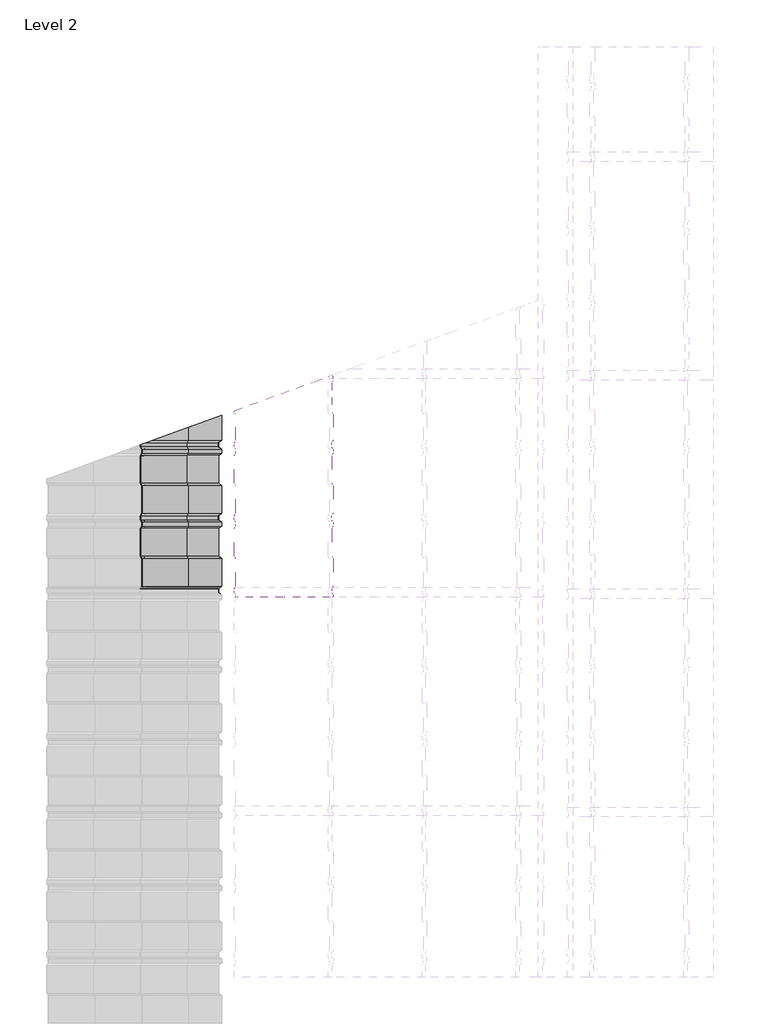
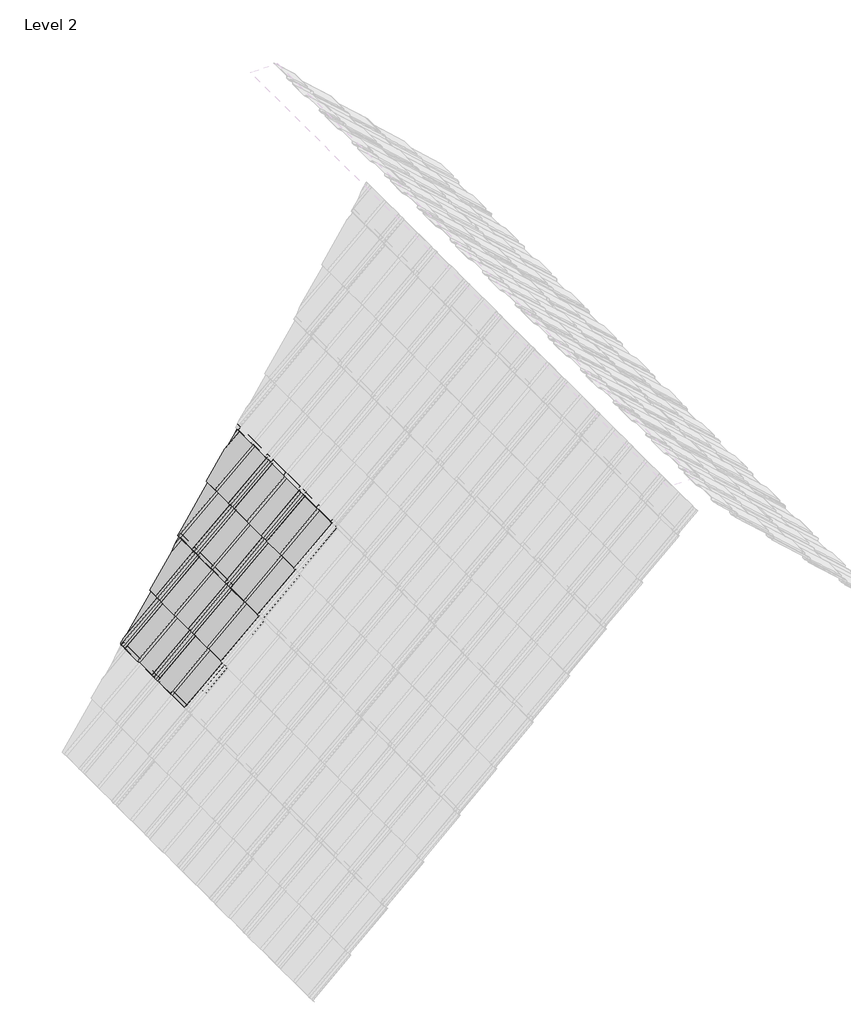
# One storey, part 2 of 4: 2 proxies.
"""IFC4 building model written with IfcOpenShell, lengths in millimetres."""

from ifc_helpers import new_model, si_unit, origin, place, context, project, spatial, faceted_brep, element, save

model = new_model("IFC4")

# Units and contexts
model_context = context("Model", 3, world=origin())
ifc_project = project(units=[si_unit("LENGTHUNIT", "METRE", prefix="MILLI")], contexts=[model_context])

# Site, building, storey
site = spatial("IfcSite", under=ifc_project)
building = spatial("IfcBuilding", under=site)
storey = spatial("IfcBuildingStorey", under=building, Name="Level 2", Elevation=4000.0)

# Proxies
placement = place(None, origin())
element("IfcBuildingElementProxy", 1, Name="AQUAPLAST - Blachodachówka Alice : Blachodachówka Alice", ObjectType="AQUAPLAST - Blachodachówka Alice : Blachodachówka Alice", at=placement, inside=storey, context=model_context, shape_type="Brep", body=[
    faceted_brep([(-7469.546321, 14058.8864165, 4805.2098563), (-7461.4934347, 14046.8864165, 4796.3131703), (-7461.4934347, 14024.8864165, 4796.3131703), (-7469.2107841, 14013.3864165, 4804.839161), (-7469.2107841, 13866.6688392, 4804.839161), (-7461.4934347, 13855.1688392, 4796.3131703), (-7461.4934347, 13709.2531454, 4796.3131703), (-7469.546321, 13697.2531454, 4805.2098563), (-7469.546321, 13675.440766, 4805.2098563), (-7461.4934347, 13663.440766, 4796.3131703), (-7461.4934347, 13641.440766, 4796.3131703), (-7469.2107841, 13629.940766, 4804.839161), (-7469.2107841, 13483.2231888, 4804.839161), (-7461.4934347, 13471.7231888, 4796.3131703), (-7461.4934347, 13325.1039938, 4796.3131703), (-7469.2107841, 13313.6039938, 4804.839161), (-7469.2107841, 13291.8864165, 4804.839161), (-7461.4934347, 13280.3864165, 4796.3131703), (-7461.4934347, 13267.7302878, 4796.3131703), (-7450.2865013, 13267.7302878, 4783.9319489), (-7450.2865013, 13280.3864165, 4783.9319489), (-7458.0038507, 13291.8864165, 4792.4579397), (-7458.0038507, 13313.6039938, 4792.4579397), (-7450.2865013, 13325.1039938, 4783.9319489), (-7450.2865013, 13471.7231888, 4783.9319489), (-7458.0038507, 13483.2231888, 4792.4579397), (-7458.0038507, 13629.940766, 4792.4579397), (-7450.2865013, 13641.440766, 4783.9319489), (-7450.2865013, 13663.440766, 4783.9319489), (-7458.3393876, 13675.440766, 4792.8286349), (-7458.3393876, 13697.2531454, 4792.8286349), (-7450.2865013, 13709.2531454, 4783.9319489), (-7450.2865013, 13855.1688392, 4783.9319489), (-7458.0038507, 13866.6688392, 4792.4579397), (-7458.0038507, 14013.3864165, 4792.4579397), (-7450.2865013, 14024.8864165, 4783.9319489), (-7450.2865013, 14046.8864165, 4783.9319489), (-7458.3393876, 14058.8864165, 4792.8286349), (-7458.3393876, 14074.1216256, 4792.8286349), (-7469.546321, 14070.0426354, 4805.2098563), (-6963.7995439, 14242.0759953, 5286.5937441), (-6956.0821945, 14230.5759953, 5278.0677534), (-6956.0821945, 14092.9059027, 5278.0677534), (-6964.1350809, 14080.9059027, 5286.9644394), (-6964.1350809, 14058.6793097, 5286.9644394), (-6956.0821945, 14046.6793097, 5278.0677534), (-6956.0821945, 14025.0935233, 5278.0677534), (-6963.7995439, 14013.5935233, 5286.5937441), (-6963.7995439, 13866.4617325, 5286.5937441), (-6956.0821945, 13854.9617325, 5278.0677534), (-6956.0821945, 13709.4602522, 5278.0677534), (-6964.1350809, 13697.4602522, 5286.9644394), (-6964.1350809, 13675.2336592, 5286.9644394), (-6956.0821945, 13663.2336592, 5278.0677534), (-6956.0821945, 13641.6478728, 5278.0677534), (-6963.7995439, 13630.1478728, 5286.5937441), (-6963.7995439, 13483.016082, 5286.5937441), (-6956.0821945, 13471.516082, 5278.0677534), (-6956.0821945, 13325.3111006, 5278.0677534), (-6963.7995439, 13313.8111006, 5286.5937441), (-6963.7995439, 13291.6793097, 5286.5937441), (-6956.0821945, 13280.1793097, 5278.0677534), (-6956.0821945, 13267.7302878, 5278.0677534), (-6967.071029, 13267.7302878, 5290.2080228), (-6967.071029, 13280.1793097, 5290.2080228), (-6974.7883784, 13291.6793097, 5298.7340136), (-6974.7883784, 13313.8111006, 5298.7340136), (-6967.071029, 13325.3111006, 5290.2080228), (-6967.071029, 13471.516082, 5290.2080228), (-6974.7883784, 13483.016082, 5298.7340136), (-6974.7883784, 13630.1478728, 5298.7340136), (-6967.071029, 13641.6478728, 5290.2080228), (-6967.071029, 13663.2336592, 5290.2080228), (-6975.1239153, 13675.2336592, 5299.1047088), (-6975.1239153, 13697.4602522, 5299.1047088), (-6967.071029, 13709.4602522, 5290.2080228), (-6967.071029, 13854.9617325, 5290.2080228), (-6974.7883784, 13866.4617325, 5298.7340136), (-6974.7883784, 14013.5935233, 5298.7340136), (-6967.071029, 14025.0935233, 5290.2080228), (-6967.071029, 14046.6793097, 5290.2080228), (-6975.1239153, 14058.6793097, 5299.1047088), (-6975.1239153, 14080.9059027, 5299.1047088), (-6967.071029, 14092.9059027, 5290.2080228), (-6967.071029, 14230.5759953, 5290.2080228), (-6974.7883784, 14242.0759953, 5298.7340136), (-6974.7883784, 14250.1197997, 5298.7340136), (-6963.7995439, 14254.1194083, 5286.5937441), (-6959.2191779, 14242.0759953, 5312.8265646), (-6951.5018285, 14230.5759953, 5304.3005739), (-6951.5018285, 14092.9059027, 5304.3005739), (-6959.5547148, 14080.9059027, 5313.1972599), (-6959.5547148, 14058.6793097, 5313.1972599), (-6951.5018285, 14046.6793097, 5304.3005739), (-6951.5018285, 14025.0935233, 5304.3005739), (-6959.2191779, 14013.5935233, 5312.8265646), (-6959.2191779, 13866.4617325, 5312.8265646), (-6951.5018285, 13854.9617325, 5304.3005739), (-6951.5018285, 13709.4602522, 5304.3005739), (-6959.5547148, 13697.4602522, 5313.1972599), (-6959.5547148, 13675.2336592, 5313.1972599), (-6951.5018285, 13663.2336592, 5304.3005739), (-6951.5018285, 13641.6478728, 5304.3005739), (-6959.2191779, 13630.1478728, 5312.8265646), (-6959.2191779, 13483.016082, 5312.8265646), (-6951.5018285, 13471.516082, 5304.3005739), (-6951.5018285, 13325.3111006, 5304.3005739), (-6959.2191779, 13313.8111006, 5312.8265646), (-6959.2191779, 13291.6793097, 5312.8265646), (-6951.5018285, 13280.1793097, 5304.3005739), (-6951.5018285, 13267.7302878, 5304.3005739), (-6951.1662915, 13267.7302878, 5303.9298786), (-6951.1662915, 13280.3864165, 5303.9298786), (-6958.8836409, 13291.8864165, 5312.4558694), (-6958.8836409, 13313.6039938, 5312.4558694), (-6951.1662915, 13325.1039938, 5303.9298786), (-6951.1662915, 13471.7231888, 5303.9298786), (-6958.8836409, 13483.2231888, 5312.4558694), (-6958.8836409, 13629.940766, 5312.4558694), (-6951.1662915, 13641.440766, 5303.9298786), (-6951.1662915, 13663.440766, 5303.9298786), (-6959.2191779, 13675.440766, 5312.8265646), (-6959.2191779, 13697.2531454, 5312.8265646), (-6951.1662915, 13709.2531454, 5303.9298786), (-6951.1662915, 13855.1688392, 5303.9298786), (-6958.8836409, 13866.6688392, 5312.4558694), (-6958.8836409, 14013.3864165, 5312.4558694), (-6951.1662915, 14024.8864165, 5303.9298786), (-6951.1662915, 14046.8864165, 5303.9298786), (-6959.2191779, 14058.8864165, 5312.8265646), (-6959.2191779, 14080.6987959, 5312.8265646), (-6951.1662915, 14092.6987959, 5303.9298786), (-6951.1662915, 14230.7831021, 5303.9298786), (-6958.8836409, 14242.2831021, 5312.4558694), (-6958.8836409, 14255.9086507, 5312.4558694), (-6959.2191779, 14255.7865253, 5312.8265646), (-6973.711451, 14242.2831021, 5299.0343922), (-6965.9941016, 14230.7831021, 5290.5084014), (-6965.9941016, 14092.6987959, 5290.5084014), (-6974.0469879, 14080.6987959, 5299.4050874), (-6974.0469879, 14058.8864165, 5299.4050874), (-6965.9941016, 14046.8864165, 5290.5084014), (-6965.9941016, 14024.8864165, 5290.5084014), (-6973.711451, 14013.3864165, 5299.0343922), (-6973.711451, 13866.6688392, 5299.0343922), (-6965.9941016, 13855.1688392, 5290.5084014), (-6965.9941016, 13709.2531454, 5290.5084014), (-6974.0469879, 13697.2531454, 5299.4050874), (-6974.0469879, 13675.440766, 5299.4050874), (-6965.9941016, 13663.440766, 5290.5084014), (-6965.9941016, 13641.440766, 5290.5084014), (-6973.711451, 13629.940766, 5299.0343922), (-6973.711451, 13483.2231888, 5299.0343922), (-6965.9941016, 13471.7231888, 5290.5084014), (-6965.9941016, 13325.1039938, 5290.5084014), (-6973.711451, 13313.6039938, 5299.0343922), (-6973.711451, 13291.8864165, 5299.0343922), (-6965.9941016, 13280.3864165, 5290.5084014), (-6965.9941016, 13267.7302878, 5290.5084014), (-6955.0052671, 13267.7302878, 5278.368132), (-6955.0052671, 13280.3864165, 5278.368132), (-6962.7226165, 13291.8864165, 5286.8941227), (-6962.7226165, 13313.6039938, 5286.8941227), (-6955.0052671, 13325.1039938, 5278.368132), (-6955.0052671, 13471.7231888, 5278.368132), (-6962.7226165, 13483.2231888, 5286.8941227), (-6962.7226165, 13629.940766, 5286.8941227), (-6955.0052671, 13641.440766, 5278.368132), (-6955.0052671, 13663.440766, 5278.368132), (-6963.0581534, 13675.440766, 5287.264818), (-6963.0581534, 13697.2531454, 5287.264818), (-6955.0052671, 13709.2531454, 5278.368132), (-6955.0052671, 13855.1688392, 5278.368132), (-6962.7226165, 13866.6688392, 5286.8941227), (-6962.7226165, 14013.3864165, 5286.8941227), (-6955.0052671, 14024.8864165, 5278.368132), (-6955.0052671, 14046.8864165, 5278.368132), (-6963.0581534, 14058.8864165, 5287.264818), (-6963.0581534, 14080.6987959, 5287.264818), (-6955.0052671, 14092.6987959, 5278.368132), (-6955.0052671, 14230.7831021, 5278.368132), (-6962.7226165, 14242.2831021, 5286.8941227), (-6962.7226165, 14254.5113779, 5286.8941227), (-6973.711451, 14250.5117692, 5299.0343922), (-7203.8250773, 14092.9059027, 5030.2175687), (-7211.8779636, 14080.9059027, 5039.1142547), (-7211.8779636, 14058.6793097, 5039.1142547), (-7203.8250773, 14046.6793097, 5030.2175687), (-7203.8250773, 14025.0935233, 5030.2175687), (-7211.5424267, 14013.5935233, 5038.7435595), (-7211.5424267, 13866.4617325, 5038.7435595), (-7203.8250773, 13854.9617325, 5030.2175687), (-7203.8250773, 13709.4602522, 5030.2175687), (-7211.8779636, 13697.4602522, 5039.1142547), (-7211.8779636, 13675.2336592, 5039.1142547), (-7203.8250773, 13663.2336592, 5030.2175687), (-7203.8250773, 13641.6478728, 5030.2175687), (-7211.5424267, 13630.1478728, 5038.7435595), (-7211.5424267, 13483.016082, 5038.7435595), (-7203.8250773, 13471.516082, 5030.2175687), (-7203.8250773, 13325.3111006, 5030.2175687), (-7211.5424267, 13313.8111006, 5038.7435595), (-7211.5424267, 13291.6793097, 5038.7435595), (-7203.8250773, 13280.1793097, 5030.2175687), (-7203.8250773, 13267.7302878, 5030.2175687), (-7215.5688699, 13267.7302878, 5043.1919025), (-7215.5688699, 13280.1793097, 5043.1919025), (-7223.2862193, 13291.6793097, 5051.7178932), (-7223.2862193, 13313.8111006, 5051.7178932), (-7215.5688699, 13325.3111006, 5043.1919025), (-7215.5688699, 13471.516082, 5043.1919025), (-7223.2862193, 13483.016082, 5051.7178932), (-7223.2862193, 13630.1478728, 5051.7178932), (-7215.5688699, 13641.6478728, 5043.1919025), (-7215.5688699, 13663.2336592, 5043.1919025), (-7223.6217562, 13675.2336592, 5052.0885885), (-7223.6217562, 13697.4602522, 5052.0885885), (-7215.5688699, 13709.4602522, 5043.1919025), (-7215.5688699, 13854.9617325, 5043.1919025), (-7223.2862193, 13866.4617325, 5051.7178932), (-7223.2862193, 14013.5935233, 5051.7178932), (-7215.5688699, 14025.0935233, 5043.1919025), (-7215.5688699, 14046.6793097, 5043.1919025), (-7223.6217562, 14058.6793097, 5052.0885885), (-7223.6217562, 14080.9059027, 5052.0885885), (-7215.5688699, 14092.9059027, 5043.1919025), (-7215.5688699, 14162.4828678, 5043.1919025), (-7203.8250773, 14166.7572587, 5030.2175687), (-6996.8885494, 14242.0759953, 5256.6430413), (-7028.4845397, 14230.5759953, 5212.5323558), (-7214.4919424, 13267.7302878, 5043.4922811), (-7214.4919424, 13280.3864165, 5043.4922811), (-7222.2092918, 13291.8864165, 5052.0182718), (-7222.2092918, 13313.6039938, 5052.0182718), (-7214.4919424, 13325.1039938, 5043.4922811), (-7214.4919424, 13471.7231888, 5043.4922811), (-7222.2092918, 13483.2231888, 5052.0182718), (-7222.2092918, 13629.940766, 5052.0182718), (-7214.4919424, 13641.440766, 5043.4922811), (-7214.4919424, 13663.440766, 5043.4922811), (-7222.5448288, 13675.440766, 5052.3889671), (-7222.5448288, 13697.2531454, 5052.3889671), (-7214.4919424, 13709.2531454, 5043.4922811), (-7214.4919424, 13855.1688392, 5043.4922811), (-7222.2092918, 13866.6688392, 5052.0182718), (-7222.2092918, 14013.3864165, 5052.0182718), (-7214.4919424, 14024.8864165, 5043.4922811), (-7214.4919424, 14046.8864165, 5043.4922811), (-7222.5448288, 14058.8864165, 5052.3889671), (-7222.5448288, 14080.6987959, 5052.3889671), (-7214.4919424, 14092.6987959, 5043.4922811), (-7214.4919424, 14162.8748373, 5043.4922811), (-7027.9155185, 14230.7831021, 5212.3730002), (-6996.3195282, 14242.2831021, 5256.4836857), (-7459.0807781, 14058.8864165, 4792.1575611), (-7451.0278918, 14046.8864165, 4783.2608751), (-7451.0278918, 14024.8864165, 4783.2608751), (-7458.7452412, 14013.3864165, 4791.7868658), (-7458.7452412, 13866.6688392, 4791.7868658), (-7451.0278918, 13855.1688392, 4783.2608751), (-7451.0278918, 13709.2531454, 4783.2608751), (-7459.0807781, 13697.2531454, 4792.1575611), (-7459.0807781, 13675.440766, 4792.1575611), (-7451.0278918, 13663.440766, 4783.2608751), (-7451.0278918, 13641.440766, 4783.2608751), (-7458.7452412, 13629.940766, 4791.7868658), (-7458.7452412, 13483.2231888, 4791.7868658), (-7451.0278918, 13471.7231888, 4783.2608751), (-7451.0278918, 13325.1039938, 4783.2608751), (-7458.7452412, 13313.6039938, 4791.7868658), (-7458.7452412, 13291.8864165, 4791.7868658), (-7451.0278918, 13280.3864165, 4783.2608751), (-7451.0278918, 13267.7302878, 4783.2608751), (-7462.5703622, 13267.7302878, 4796.0127917), (-7462.5703622, 13280.1793097, 4796.0127917), (-7470.2877115, 13291.6793097, 4804.5387824), (-7470.2877115, 13313.8111006, 4804.5387824), (-7462.5703622, 13325.3111006, 4796.0127917), (-7462.5703622, 13471.516082, 4796.0127917), (-7470.2877115, 13483.016082, 4804.5387824), (-7470.2877115, 13630.1478728, 4804.5387824), (-7462.5703622, 13641.6478728, 4796.0127917), (-7462.5703622, 13663.2336592, 4796.0127917), (-7470.6232485, 13675.2336592, 4804.9094777), (-7470.6232485, 13697.4602522, 4804.9094777), (-7462.5703622, 13709.4602522, 4796.0127917), (-7462.5703622, 13854.9617325, 4796.0127917), (-7470.2877115, 13866.4617325, 4804.5387824), (-7470.2877115, 14013.5935233, 4804.5387824), (-7462.5703622, 14025.0935233, 4796.0127917), (-7462.5703622, 14046.6793097, 4796.0127917), (-7470.6232485, 14058.6793097, 4804.9094777), (-7470.6232485, 14069.6506659, 4804.9094777), (-7459.0807781, 14073.8517815, 4792.1575611), (-7202.7481499, 13267.7302878, 5030.5179473), (-7202.7481499, 13280.3864165, 5030.5179473), (-7210.4654993, 13291.8864165, 5039.0439381), (-7210.4654993, 13313.6039938, 5039.0439381), (-7202.7481499, 13325.1039938, 5030.5179473), (-7202.7481499, 13471.7231888, 5030.5179473), (-7210.4654993, 13483.2231888, 5039.0439381), (-7210.4654993, 13629.940766, 5039.0439381), (-7202.7481499, 13641.440766, 5030.5179473), (-7202.7481499, 13663.440766, 5030.5179473), (-7210.8010362, 13675.440766, 5039.4146333), (-7210.8010362, 13697.2531454, 5039.4146333), (-7202.7481499, 13709.2531454, 5030.5179473), (-7202.7481499, 13855.1688392, 5030.5179473), (-7210.4654993, 13866.6688392, 5039.0439381), (-7210.4654993, 14013.3864165, 5039.0439381), (-7202.7481499, 14024.8864165, 5030.5179473), (-7202.7481499, 14046.8864165, 5030.5179473), (-7210.8010362, 14058.8864165, 5039.4146333), (-7210.8010362, 14080.6987959, 5039.4146333), (-7202.7481499, 14092.6987959, 5030.5179473), (-7202.7481499, 14167.1492283, 5030.5179473), (-7406.7300105, 14092.9059027, 4846.557006), (-7439.6997395, 14080.9059027, 4832.900069), (-7203.4895404, 13280.3864165, 5029.8468735), (-7211.2068898, 13291.8864165, 5038.3728642), (-7211.2068898, 13313.6039938, 5038.3728642), (-7203.4895404, 13325.1039938, 5029.8468735), (-7203.4895404, 13471.7231888, 5029.8468735), (-7211.2068898, 13483.2231888, 5038.3728642), (-7211.2068898, 13629.940766, 5038.3728642), (-7203.4895404, 13641.440766, 5029.8468735), (-7203.4895404, 13663.440766, 5029.8468735), (-7211.5424267, 13675.440766, 5038.7435595), (-7211.5424267, 13697.2531454, 5038.7435595), (-7203.4895404, 13709.2531454, 5029.8468735), (-7203.4895404, 13855.1688392, 5029.8468735), (-7211.2068898, 13866.6688392, 5038.3728642), (-7211.2068898, 14013.3864165, 5038.3728642), (-7203.4895404, 14024.8864165, 5029.8468735), (-7203.4895404, 14046.8864165, 5029.8468735), (-7211.5424267, 14058.8864165, 5038.7435595), (-7440.2687607, 14080.6987959, 4831.7106078), (-7211.5424267, 14080.6987959, 5038.7435595), (-7407.2990317, 14092.6987959, 4845.3675447), (-7203.4895404, 14092.6987959, 5029.8468735), (-6974.0469879, 14242.0759953, 5299.4050874), (-6966.3296385, 14230.5759953, 5290.8790967), (-6966.3296385, 14092.9059027, 5290.8790967), (-6974.3825248, 14080.9059027, 5299.7757827), (-6974.3825248, 14058.6793097, 5299.7757827), (-6966.3296385, 14046.6793097, 5290.8790967), (-6966.3296385, 14025.0935233, 5290.8790967), (-6974.0469879, 14013.5935233, 5299.4050874), (-6974.0469879, 13866.4617325, 5299.4050874), (-6966.3296385, 13854.9617325, 5290.8790967), (-6966.3296385, 13709.4602522, 5290.8790967), (-6974.3825248, 13697.4602522, 5299.7757827), (-6974.3825248, 13675.2336592, 5299.7757827), (-6966.3296385, 13663.2336592, 5290.8790967), (-6966.3296385, 13641.6478728, 5290.8790967), (-6974.0469879, 13630.1478728, 5299.4050874), (-6974.0469879, 13483.016082, 5299.4050874), (-6966.3296385, 13471.516082, 5290.8790967), (-6966.3296385, 13325.3111006, 5290.8790967), (-6974.0469879, 13313.8111006, 5299.4050874), (-6974.0469879, 13291.6793097, 5299.4050874), (-6966.3296385, 13280.1793097, 5290.8790967)], [[[0, 1, 2, 3, 4, 5, 6, 7, 8, 9, 10, 11, 12, 13, 14, 15, 16, 17, 18, 19, 20, 21, 22, 23, 24, 25, 26, 27, 28, 29, 30, 31, 32, 33, 34, 35, 36, 37, 38, 39]], [[40, 41, 42, 43, 44, 45, 46, 47, 48, 49, 50, 51, 52, 53, 54, 55, 56, 57, 58, 59, 60, 61, 62, 63, 64, 65, 66, 67, 68, 69, 70, 71, 72, 73, 74, 75, 76, 77, 78, 79, 80, 81, 82, 83, 84, 85, 86, 87]], [[88, 89, 90, 91, 92, 93, 94, 95, 96, 97, 98, 99, 100, 101, 102, 103, 104, 105, 106, 107, 108, 109, 110, 111, 112, 113, 114, 115, 116, 117, 118, 119, 120, 121, 122, 123, 124, 125, 126, 127, 128, 129, 130, 131, 132, 133, 134, 135]], [[136, 137, 138, 139, 140, 141, 142, 143, 144, 145, 146, 147, 148, 149, 150, 151, 152, 153, 154, 155, 156, 157, 158, 159, 160, 161, 162, 163, 164, 165, 166, 167, 168, 169, 170, 171, 172, 173, 174, 175, 176, 177, 178, 179, 180, 181, 182, 183]], [[184, 185, 186, 187, 188, 189, 190, 191, 192, 193, 194, 195, 196, 197, 198, 199, 200, 201, 202, 203, 204, 205, 206, 207, 208, 209, 210, 211, 212, 213, 214, 215, 216, 217, 218, 219, 220, 221, 222, 223, 224, 225, 226, 227]], [[40, 87, 228]], [[41, 40, 228, 229]], [[42, 41, 229, 226, 225]], [[43, 42, 225, 224]], [[44, 43, 224, 223]], [[45, 44, 223, 222]], [[46, 45, 222, 221]], [[47, 46, 221, 220]], [[48, 47, 220, 219]], [[49, 48, 219, 218]], [[50, 49, 218, 217]], [[51, 50, 217, 216]], [[52, 51, 216, 215]], [[53, 52, 215, 214]], [[54, 53, 214, 213]], [[55, 54, 213, 212]], [[56, 55, 212, 211]], [[57, 56, 211, 210]], [[58, 57, 210, 209]], [[59, 58, 209, 208]], [[60, 59, 208, 207]], [[61, 60, 207, 206]], [[62, 61, 206, 205]], [[160, 159, 230, 231]], [[161, 160, 231, 232]], [[162, 161, 232, 233]], [[163, 162, 233, 234]], [[164, 163, 234, 235]], [[165, 164, 235, 236]], [[166, 165, 236, 237]], [[167, 166, 237, 238]], [[168, 167, 238, 239]], [[169, 168, 239, 240]], [[170, 169, 240, 241]], [[171, 170, 241, 242]], [[172, 171, 242, 243]], [[173, 172, 243, 244]], [[174, 173, 244, 245]], [[175, 174, 245, 246]], [[176, 175, 246, 247]], [[177, 176, 247, 248]], [[178, 177, 248, 249]], [[179, 178, 249, 250]], [[180, 179, 250, 251, 252]], [[181, 180, 252, 253]], [[182, 181, 253]], [[254, 255, 256, 257, 258, 259, 260, 261, 262, 263, 264, 265, 266, 267, 268, 269, 270, 271, 272, 273, 274, 275, 276, 277, 278, 279, 280, 281, 282, 283, 284, 285, 286, 287, 288, 289, 290, 291, 292, 293]], [[231, 230, 294, 295, 296, 297, 298, 299, 300, 301, 302, 303, 304, 305, 306, 307, 308, 309, 310, 311, 312, 313, 314, 315, 251, 250, 249, 248, 247, 246, 245, 244, 243, 242, 241, 240, 239, 238, 237, 236, 235, 234, 233, 232]], [[184, 227, 316]], [[185, 184, 316, 317]], [[186, 185, 317, 292, 291]], [[187, 186, 291, 290]], [[188, 187, 290, 289]], [[189, 188, 289, 288]], [[190, 189, 288, 287]], [[191, 190, 287, 286]], [[192, 191, 286, 285]], [[193, 192, 285, 284]], [[194, 193, 284, 283]], [[195, 194, 283, 282]], [[196, 195, 282, 281]], [[197, 196, 281, 280]], [[198, 197, 280, 279]], [[199, 198, 279, 278]], [[200, 199, 278, 277]], [[201, 200, 277, 276]], [[202, 201, 276, 275]], [[203, 202, 275, 274]], [[204, 203, 274, 273]], [[18, 17, 318, 295, 294]], [[17, 16, 319, 296, 295, 318]], [[16, 15, 320, 297, 296, 319]], [[15, 14, 321, 298, 297, 320]], [[14, 13, 322, 299, 298, 321]], [[13, 12, 323, 300, 299, 322]], [[12, 11, 324, 301, 300, 323]], [[11, 10, 325, 302, 301, 324]], [[10, 9, 326, 303, 302, 325]], [[9, 8, 327, 304, 303, 326]], [[8, 7, 328, 305, 304, 327]], [[7, 6, 329, 306, 305, 328]], [[6, 5, 330, 307, 306, 329]], [[5, 4, 331, 308, 307, 330]], [[4, 3, 332, 309, 308, 331]], [[3, 2, 333, 310, 309, 332]], [[2, 1, 334, 311, 310, 333]], [[1, 0, 335, 312, 311, 334]], [[313, 312, 335, 0, 39, 336, 337]], [[314, 313, 337, 336, 338, 339]], [[314, 339, 338, 315]], [[20, 19, 272, 271]], [[21, 20, 271, 270]], [[22, 21, 270, 269]], [[23, 22, 269, 268]], [[24, 23, 268, 267]], [[25, 24, 267, 266]], [[26, 25, 266, 265]], [[27, 26, 265, 264]], [[28, 27, 264, 263]], [[29, 28, 263, 262]], [[30, 29, 262, 261]], [[31, 30, 261, 260]], [[32, 31, 260, 259]], [[33, 32, 259, 258]], [[34, 33, 258, 257]], [[35, 34, 257, 256]], [[36, 35, 256, 255]], [[37, 36, 255, 254]], [[37, 254, 293, 38]], [[85, 340, 88, 135, 86]], [[85, 84, 341, 89, 88, 340]], [[84, 83, 342, 90, 89, 341]], [[83, 82, 343, 91, 90, 342]], [[82, 81, 344, 92, 91, 343]], [[81, 80, 345, 93, 92, 344]], [[80, 79, 346, 94, 93, 345]], [[79, 78, 347, 95, 94, 346]], [[78, 77, 348, 96, 95, 347]], [[77, 76, 349, 97, 96, 348]], [[76, 75, 350, 98, 97, 349]], [[75, 74, 351, 99, 98, 350]], [[74, 73, 352, 100, 99, 351]], [[73, 72, 353, 101, 100, 352]], [[72, 71, 354, 102, 101, 353]], [[71, 70, 355, 103, 102, 354]], [[70, 69, 356, 104, 103, 355]], [[69, 68, 357, 105, 104, 356]], [[68, 67, 358, 106, 105, 357]], [[67, 66, 359, 107, 106, 358]], [[66, 65, 360, 108, 107, 359]], [[65, 64, 361, 109, 108, 360]], [[64, 63, 110, 109, 361]], [[112, 111, 158, 157]], [[113, 112, 157, 156]], [[114, 113, 156, 155]], [[115, 114, 155, 154]], [[116, 115, 154, 153]], [[117, 116, 153, 152]], [[118, 117, 152, 151]], [[119, 118, 151, 150]], [[120, 119, 150, 149]], [[121, 120, 149, 148]], [[122, 121, 148, 147]], [[123, 122, 147, 146]], [[124, 123, 146, 145]], [[125, 124, 145, 144]], [[126, 125, 144, 143]], [[127, 126, 143, 142]], [[128, 127, 142, 141]], [[129, 128, 141, 140]], [[130, 129, 140, 139]], [[131, 130, 139, 138]], [[132, 131, 138, 137]], [[133, 132, 137, 136]], [[133, 136, 183, 134]], [[19, 18, 294, 230, 159, 158, 111, 110, 63, 62, 205, 204, 273, 272]], [[39, 38, 293, 292, 317, 316, 227, 226, 229, 228, 87, 86, 135, 134, 183, 182, 253, 252, 251, 315, 338, 336]]]),
])
element("IfcBuildingElementProxy", 2, Name="AQUAPLAST - Blachodachówka Alice : Blachodachówka Alice", ObjectType="AQUAPLAST - Blachodachówka Alice : Blachodachówka Alice", at=placement, inside=storey, context=model_context, shape_type="Brep", body=[
    faceted_brep([(-6975.3674081, 14242.2831021, 5298.682537), (-6967.6500587, 14230.7831021, 5290.1565463), (-6967.6500587, 14092.6987959, 5290.1565463), (-6975.7029451, 14080.6987959, 5299.0532323), (-6975.7029451, 14058.8864165, 5299.0532323), (-6967.6500587, 14046.8864165, 5290.1565463), (-6967.6500587, 14024.8864165, 5290.1565463), (-6975.3674081, 14013.3864165, 5298.682537), (-6975.3674081, 13866.6688392, 5298.682537), (-6967.6500587, 13855.1688392, 5290.1565463), (-6967.6500587, 13709.2531454, 5290.1565463), (-6975.7029451, 13697.2531454, 5299.0532323), (-6975.7029451, 13675.440766, 5299.0532323), (-6967.6500587, 13663.440766, 5290.1565463), (-6967.6500587, 13641.440766, 5290.1565463), (-6975.3674081, 13629.940766, 5298.682537), (-6975.3674081, 13483.2231888, 5298.682537), (-6967.6500587, 13471.7231888, 5290.1565463), (-6967.6500587, 13325.1039938, 5290.1565463), (-6975.3674081, 13313.6039938, 5298.682537), (-6975.3674081, 13291.8864165, 5298.682537), (-6967.6500587, 13280.3864165, 5290.1565463), (-6967.6500587, 13267.7302878, 5290.1565463), (-6956.4431253, 13267.7302878, 5277.7753249), (-6956.4431253, 13280.3864165, 5277.7753249), (-6964.1604747, 13291.8864165, 5286.3013157), (-6964.1604747, 13313.6039938, 5286.3013157), (-6956.4431253, 13325.1039938, 5277.7753249), (-6956.4431253, 13471.7231888, 5277.7753249), (-6964.1604747, 13483.2231888, 5286.3013157), (-6964.1604747, 13629.940766, 5286.3013157), (-6956.4431253, 13641.440766, 5277.7753249), (-6956.4431253, 13663.440766, 5277.7753249), (-6964.4960116, 13675.440766, 5286.6720109), (-6964.4960116, 13697.2531454, 5286.6720109), (-6956.4431253, 13709.2531454, 5277.7753249), (-6956.4431253, 13855.1688392, 5277.7753249), (-6964.1604747, 13866.6688392, 5286.3013157), (-6964.1604747, 14013.3864165, 5286.3013157), (-6956.4431253, 14024.8864165, 5277.7753249), (-6956.4431253, 14046.8864165, 5277.7753249), (-6964.4960116, 14058.8864165, 5286.6720109), (-6964.4960116, 14080.6987959, 5286.6720109), (-6956.4431253, 14092.6987959, 5277.7753249), (-6956.4431253, 14230.7831021, 5277.7753249), (-6964.1604747, 14242.2831021, 5286.3013157), (-6964.1604747, 14253.9880403, 5286.3013157), (-6975.3674081, 14249.9090501, 5298.682537), (-6462.5743555, 14428.9722029, 5772.2818246), (-6462.5743555, 14407.5935233, 5772.2818246), (-6469.956168, 14396.5935233, 5780.4371201), (-6469.956168, 14242.0759953, 5780.4371201), (-6462.2388186, 14230.5759953, 5771.9111293), (-6462.2388186, 14092.9059027, 5771.9111293), (-6470.2917049, 14080.9059027, 5780.8078153), (-6470.2917049, 14058.6793097, 5780.8078153), (-6462.2388186, 14046.6793097, 5771.9111293), (-6462.2388186, 14025.0935233, 5771.9111293), (-6469.956168, 14013.5935233, 5780.4371201), (-6469.956168, 13866.4617325, 5780.4371201), (-6462.2388186, 13854.9617325, 5771.9111293), (-6462.2388186, 13709.4602522, 5771.9111293), (-6470.2917049, 13697.4602522, 5780.8078153), (-6470.2917049, 13675.2336592, 5780.8078153), (-6462.2388186, 13663.2336592, 5771.9111293), (-6462.2388186, 13641.6478728, 5771.9111293), (-6469.956168, 13630.1478728, 5780.4371201), (-6469.956168, 13483.016082, 5780.4371201), (-6462.2388186, 13471.516082, 5771.9111293), (-6462.2388186, 13325.3111006, 5771.9111293), (-6469.956168, 13313.8111006, 5780.4371201), (-6469.956168, 13291.6793097, 5780.4371201), (-6462.2388186, 13280.1793097, 5771.9111293), (-6462.2388186, 13267.7302878, 5771.9111293), (-6473.227653, 13267.7302878, 5784.0513988), (-6473.227653, 13280.1793097, 5784.0513988), (-6480.9450024, 13291.6793097, 5792.5773895), (-6480.9450024, 13313.8111006, 5792.5773895), (-6473.227653, 13325.3111006, 5784.0513988), (-6473.227653, 13471.516082, 5784.0513988), (-6480.9450024, 13483.016082, 5792.5773895), (-6480.9450024, 13630.1478728, 5792.5773895), (-6473.227653, 13641.6478728, 5784.0513988), (-6473.227653, 13663.2336592, 5784.0513988), (-6481.2805393, 13675.2336592, 5792.9480848), (-6481.2805393, 13697.4602522, 5792.9480848), (-6473.227653, 13709.4602522, 5784.0513988), (-6473.227653, 13854.9617325, 5784.0513988), (-6480.9450024, 13866.4617325, 5792.5773895), (-6480.9450024, 14013.5935233, 5792.5773895), (-6473.227653, 14025.0935233, 5784.0513988), (-6473.227653, 14046.6793097, 5784.0513988), (-6481.2805393, 14058.6793097, 5792.9480848), (-6481.2805393, 14080.9059027, 5792.9480848), (-6473.227653, 14092.9059027, 5784.0513988), (-6473.227653, 14230.5759953, 5784.0513988), (-6480.9450024, 14242.0759953, 5792.5773895), (-6480.9450024, 14396.5935233, 5792.5773895), (-6473.5631899, 14407.5935233, 5784.422094), (-6473.5631899, 14428.9722029, 5784.422094), (-6475.4932957, 14431.8483479, 5786.5544406), (-6466.6616088, 14435.0628191, 5776.7973495), (-6457.6584525, 14407.3864165, 5798.1439498), (-6457.6584525, 14429.1793097, 5798.1439498), (-6462.5990142, 14436.5414826, 5803.6021948), (-6462.980385, 14436.402675, 5804.0235265), (-6457.9939894, 14428.9722029, 5798.5146451), (-6457.9939894, 14407.5935233, 5798.5146451), (-6465.3758019, 14396.5935233, 5806.6699406), (-6465.3758019, 14242.0759953, 5806.6699406), (-6457.6584525, 14230.5759953, 5798.1439498), (-6457.6584525, 14092.9059027, 5798.1439498), (-6465.7113388, 14080.9059027, 5807.0406359), (-6465.7113388, 14058.6793097, 5807.0406359), (-6457.6584525, 14046.6793097, 5798.1439498), (-6457.6584525, 14025.0935233, 5798.1439498), (-6465.3758019, 14013.5935233, 5806.6699406), (-6465.3758019, 13866.4617325, 5806.6699406), (-6457.6584525, 13854.9617325, 5798.1439498), (-6457.6584525, 13709.4602522, 5798.1439498), (-6465.7113388, 13697.4602522, 5807.0406359), (-6465.7113388, 13675.2336592, 5807.0406359), (-6457.6584525, 13663.2336592, 5798.1439498), (-6457.6584525, 13641.6478728, 5798.1439498), (-6465.3758019, 13630.1478728, 5806.6699406), (-6465.3758019, 13483.016082, 5806.6699406), (-6457.6584525, 13471.516082, 5798.1439498), (-6457.6584525, 13325.3111006, 5798.1439498), (-6465.3758019, 13313.8111006, 5806.6699406), (-6465.3758019, 13291.6793097, 5806.6699406), (-6457.6584525, 13280.1793097, 5798.1439498), (-6457.6584525, 13267.7302878, 5798.1439498), (-6457.3229156, 13267.7302878, 5797.7732546), (-6457.3229156, 13280.3864165, 5797.7732546), (-6465.040265, 13291.8864165, 5806.2992453), (-6465.040265, 13313.6039938, 5806.2992453), (-6457.3229156, 13325.1039938, 5797.7732546), (-6457.3229156, 13471.7231888, 5797.7732546), (-6465.040265, 13483.2231888, 5806.2992453), (-6465.040265, 13629.940766, 5806.2992453), (-6457.3229156, 13641.440766, 5797.7732546), (-6457.3229156, 13663.440766, 5797.7732546), (-6465.3758019, 13675.440766, 5806.6699406), (-6465.3758019, 13697.2531454, 5806.6699406), (-6457.3229156, 13709.2531454, 5797.7732546), (-6457.3229156, 13855.1688392, 5797.7732546), (-6465.040265, 13866.6688392, 5806.2992453), (-6465.040265, 14013.3864165, 5806.2992453), (-6457.3229156, 14024.8864165, 5797.7732546), (-6457.3229156, 14046.8864165, 5797.7732546), (-6465.3758019, 14058.8864165, 5806.6699406), (-6465.3758019, 14080.6987959, 5806.6699406), (-6457.3229156, 14092.6987959, 5797.7732546), (-6457.3229156, 14230.7831021, 5797.7732546), (-6465.040265, 14242.2831021, 5806.2992453), (-6465.040265, 14396.3864165, 5806.2992453), (-6472.4862625, 14429.1793097, 5784.7224726), (-6472.4862625, 14407.3864165, 5784.7224726), (-6479.868075, 14396.3864165, 5792.8777682), (-6479.868075, 14242.2831021, 5792.8777682), (-6472.1507256, 14230.7831021, 5784.3517774), (-6472.1507256, 14092.6987959, 5784.3517774), (-6480.2036119, 14080.6987959, 5793.2484634), (-6480.2036119, 14058.8864165, 5793.2484634), (-6472.1507256, 14046.8864165, 5784.3517774), (-6472.1507256, 14024.8864165, 5784.3517774), (-6479.868075, 14013.3864165, 5792.8777682), (-6479.868075, 13866.6688392, 5792.8777682), (-6472.1507256, 13855.1688392, 5784.3517774), (-6472.1507256, 13709.2531454, 5784.3517774), (-6480.2036119, 13697.2531454, 5793.2484634), (-6480.2036119, 13675.440766, 5793.2484634), (-6472.1507256, 13663.440766, 5784.3517774), (-6472.1507256, 13641.440766, 5784.3517774), (-6479.868075, 13629.940766, 5792.8777682), (-6479.868075, 13483.2231888, 5792.8777682), (-6472.1507256, 13471.7231888, 5784.3517774), (-6472.1507256, 13325.1039938, 5784.3517774), (-6479.868075, 13313.6039938, 5792.8777682), (-6479.868075, 13291.8864165, 5792.8777682), (-6472.1507256, 13280.3864165, 5784.3517774), (-6472.1507256, 13267.7302878, 5784.3517774), (-6461.1618911, 13267.7302878, 5772.2115079), (-6461.1618911, 13280.3864165, 5772.2115079), (-6468.8792405, 13291.8864165, 5780.7374987), (-6468.8792405, 13313.6039938, 5780.7374987), (-6461.1618911, 13325.1039938, 5772.2115079), (-6461.1618911, 13471.7231888, 5772.2115079), (-6468.8792405, 13483.2231888, 5780.7374987), (-6468.8792405, 13629.940766, 5780.7374987), (-6461.1618911, 13641.440766, 5772.2115079), (-6461.1618911, 13663.440766, 5772.2115079), (-6469.2147775, 13675.440766, 5781.108194), (-6469.2147775, 13697.2531454, 5781.108194), (-6461.1618911, 13709.2531454, 5772.2115079), (-6461.1618911, 13855.1688392, 5772.2115079), (-6468.8792405, 13866.6688392, 5780.7374987), (-6468.8792405, 14013.3864165, 5780.7374987), (-6461.1618911, 14024.8864165, 5772.2115079), (-6461.1618911, 14046.8864165, 5772.2115079), (-6469.2147775, 14058.8864165, 5781.108194), (-6469.2147775, 14080.6987959, 5781.108194), (-6461.1618911, 14092.6987959, 5772.2115079), (-6461.1618911, 14230.7831021, 5772.2115079), (-6468.8792405, 14242.2831021, 5780.7374987), (-6468.8792405, 14396.3864165, 5780.7374987), (-6461.4974281, 14407.3864165, 5772.5822032), (-6461.4974281, 14429.1793097, 5772.5822032), (-6465.6843851, 14435.4184994, 5777.2078791), (-6474.516072, 14432.2040282, 5786.9649702), (-6717.6990507, 14242.0759953, 5532.5869354), (-6709.9817013, 14230.5759953, 5524.0609447), (-6709.9817013, 14092.9059027, 5524.0609447), (-6718.0345877, 14080.9059027, 5532.9576307), (-6718.0345877, 14058.6793097, 5532.9576307), (-6709.9817013, 14046.6793097, 5524.0609447), (-6709.9817013, 14025.0935233, 5524.0609447), (-6717.6990507, 14013.5935233, 5532.5869354), (-6717.6990507, 13866.4617325, 5532.5869354), (-6709.9817013, 13854.9617325, 5524.0609447), (-6709.9817013, 13709.4602522, 5524.0609447), (-6718.0345877, 13697.4602522, 5532.9576307), (-6718.0345877, 13675.2336592, 5532.9576307), (-6709.9817013, 13663.2336592, 5524.0609447), (-6709.9817013, 13641.6478728, 5524.0609447), (-6717.6990507, 13630.1478728, 5532.5869354), (-6717.6990507, 13483.016082, 5532.5869354), (-6709.9817013, 13471.516082, 5524.0609447), (-6709.9817013, 13325.3111006, 5524.0609447), (-6717.6990507, 13313.8111006, 5532.5869354), (-6717.6990507, 13291.6793097, 5532.5869354), (-6709.9817013, 13280.1793097, 5524.0609447), (-6709.9817013, 13267.7302878, 5524.0609447), (-6721.7254939, 13267.7302878, 5537.0352785), (-6721.7254939, 13280.1793097, 5537.0352785), (-6729.4428433, 13291.6793097, 5545.5612692), (-6729.4428433, 13313.8111006, 5545.5612692), (-6721.7254939, 13325.3111006, 5537.0352785), (-6721.7254939, 13471.516082, 5537.0352785), (-6729.4428433, 13483.016082, 5545.5612692), (-6729.4428433, 13630.1478728, 5545.5612692), (-6721.7254939, 13641.6478728, 5537.0352785), (-6721.7254939, 13663.2336592, 5537.0352785), (-6729.7783802, 13675.2336592, 5545.9319645), (-6729.7783802, 13697.4602522, 5545.9319645), (-6721.7254939, 13709.4602522, 5537.0352785), (-6721.7254939, 13854.9617325, 5537.0352785), (-6729.4428433, 13866.4617325, 5545.5612692), (-6729.4428433, 14013.5935233, 5545.5612692), (-6721.7254939, 14025.0935233, 5537.0352785), (-6721.7254939, 14046.6793097, 5537.0352785), (-6729.7783802, 14058.6793097, 5545.9319645), (-6729.7783802, 14080.9059027, 5545.9319645), (-6721.7254939, 14092.9059027, 5537.0352785), (-6721.7254939, 14230.5759953, 5537.0352785), (-6729.4428433, 14242.0759953, 5545.5612692), (-6729.4428433, 14339.4182716, 5545.5612692), (-6717.6990507, 14343.6926625, 5532.5869354), (-6483.395439, 14428.9722029, 5753.4355015), (-6542.1328786, 14407.5935233, 5700.2689715), (-6572.3551303, 14396.5935233, 5687.7501127), (-6720.6485665, 13267.7302878, 5537.3356571), (-6720.6485665, 13280.3864165, 5537.3356571), (-6728.3659158, 13291.8864165, 5545.8616478), (-6728.3659158, 13313.6039938, 5545.8616478), (-6720.6485665, 13325.1039938, 5537.3356571), (-6720.6485665, 13471.7231888, 5537.3356571), (-6728.3659158, 13483.2231888, 5545.8616478), (-6728.3659158, 13629.940766, 5545.8616478), (-6720.6485665, 13641.440766, 5537.3356571), (-6720.6485665, 13663.440766, 5537.3356571), (-6728.7014528, 13675.440766, 5546.2323431), (-6728.7014528, 13697.2531454, 5546.2323431), (-6720.6485665, 13709.2531454, 5537.3356571), (-6720.6485665, 13855.1688392, 5537.3356571), (-6728.3659158, 13866.6688392, 5545.8616478), (-6728.3659158, 14013.3864165, 5545.8616478), (-6720.6485665, 14024.8864165, 5537.3356571), (-6720.6485665, 14046.8864165, 5537.3356571), (-6728.7014528, 14058.8864165, 5546.2323431), (-6728.7014528, 14080.6987959, 5546.2323431), (-6720.6485665, 14092.6987959, 5537.3356571), (-6720.6485665, 14230.7831021, 5537.3356571), (-6728.3659158, 14242.2831021, 5545.8616478), (-6728.3659158, 14339.8102411, 5545.8616478), (-6572.9241515, 14396.3864165, 5686.5606514), (-6542.7018999, 14407.3864165, 5699.0795103), (-6482.8264178, 14429.1793097, 5753.2761459), (-6964.9018652, 14242.2831021, 5285.6302418), (-6957.1845158, 14230.7831021, 5277.104251), (-6957.1845158, 14092.6987959, 5277.104251), (-6965.2374021, 14080.6987959, 5286.0009371), (-6965.2374021, 14058.8864165, 5286.0009371), (-6957.1845158, 14046.8864165, 5277.104251), (-6957.1845158, 14024.8864165, 5277.104251), (-6964.9018652, 14013.3864165, 5285.6302418), (-6964.9018652, 13866.6688392, 5285.6302418), (-6957.1845158, 13855.1688392, 5277.104251), (-6957.1845158, 13709.2531454, 5277.104251), (-6965.2374021, 13697.2531454, 5286.0009371), (-6965.2374021, 13675.440766, 5286.0009371), (-6957.1845158, 13663.440766, 5277.104251), (-6957.1845158, 13641.440766, 5277.104251), (-6964.9018652, 13629.940766, 5285.6302418), (-6964.9018652, 13483.2231888, 5285.6302418), (-6957.1845158, 13471.7231888, 5277.104251), (-6957.1845158, 13325.1039938, 5277.104251), (-6964.9018652, 13313.6039938, 5285.6302418), (-6964.9018652, 13291.8864165, 5285.6302418), (-6957.1845158, 13280.3864165, 5277.104251), (-6957.1845158, 13267.7302878, 5277.104251), (-6968.7269862, 13267.7302878, 5289.8561677), (-6968.7269862, 13280.1793097, 5289.8561677), (-6976.4443356, 13291.6793097, 5298.3821584), (-6976.4443356, 13313.8111006, 5298.3821584), (-6968.7269862, 13325.3111006, 5289.8561677), (-6968.7269862, 13471.516082, 5289.8561677), (-6976.4443356, 13483.016082, 5298.3821584), (-6976.4443356, 13630.1478728, 5298.3821584), (-6968.7269862, 13641.6478728, 5289.8561677), (-6968.7269862, 13663.2336592, 5289.8561677), (-6976.7798725, 13675.2336592, 5298.7528537), (-6976.7798725, 13697.4602522, 5298.7528537), (-6968.7269862, 13709.4602522, 5289.8561677), (-6968.7269862, 13854.9617325, 5289.8561677), (-6976.4443356, 13866.4617325, 5298.3821584), (-6976.4443356, 14013.5935233, 5298.3821584), (-6968.7269862, 14025.0935233, 5289.8561677), (-6968.7269862, 14046.6793097, 5289.8561677), (-6976.7798725, 14058.6793097, 5298.7528537), (-6976.7798725, 14080.9059027, 5298.7528537), (-6968.7269862, 14092.9059027, 5289.8561677), (-6968.7269862, 14230.5759953, 5289.8561677), (-6976.4443356, 14242.0759953, 5298.3821584), (-6976.4443356, 14249.5170806, 5298.3821584), (-6964.9018652, 14253.7181962, 5285.6302418), (-6708.9047739, 13267.7302878, 5524.3613233), (-6708.9047739, 13280.3864165, 5524.3613233), (-6716.6221233, 13291.8864165, 5532.8873141), (-6716.6221233, 13313.6039938, 5532.8873141), (-6708.9047739, 13325.1039938, 5524.3613233), (-6708.9047739, 13471.7231888, 5524.3613233), (-6716.6221233, 13483.2231888, 5532.8873141), (-6716.6221233, 13629.940766, 5532.8873141), (-6708.9047739, 13641.440766, 5524.3613233), (-6708.9047739, 13663.440766, 5524.3613233), (-6716.9576602, 13675.440766, 5533.2580093), (-6716.9576602, 13697.2531454, 5533.2580093), (-6708.9047739, 13709.2531454, 5524.3613233), (-6708.9047739, 13855.1688392, 5524.3613233), (-6716.6221233, 13866.6688392, 5532.8873141), (-6716.6221233, 14013.3864165, 5532.8873141), (-6708.9047739, 14024.8864165, 5524.3613233), (-6708.9047739, 14046.8864165, 5524.3613233), (-6716.9576602, 14058.8864165, 5533.2580093), (-6716.9576602, 14080.6987959, 5533.2580093), (-6708.9047739, 14092.6987959, 5524.3613233), (-6708.9047739, 14230.7831021, 5524.3613233), (-6716.6221233, 14242.2831021, 5532.8873141), (-6716.6221233, 14344.084632, 5532.8873141), (-6709.6461644, 13280.3864165, 5523.6902494), (-6717.3635138, 13291.8864165, 5532.2162402), (-6717.3635138, 13313.6039938, 5532.2162402), (-6709.6461644, 13325.1039938, 5523.6902494), (-6709.6461644, 13471.7231888, 5523.6902494), (-6717.3635138, 13483.2231888, 5532.2162402), (-6717.3635138, 13629.940766, 5532.2162402), (-6709.6461644, 13641.440766, 5523.6902494), (-6709.6461644, 13663.440766, 5523.6902494), (-6717.6990507, 13675.440766, 5532.5869354), (-6717.6990507, 13697.2531454, 5532.5869354), (-6709.6461644, 13709.2531454, 5523.6902494), (-6709.6461644, 13855.1688392, 5523.6902494), (-6717.3635138, 13866.6688392, 5532.2162402), (-6717.3635138, 14013.3864165, 5532.2162402), (-6709.6461644, 14024.8864165, 5523.6902494), (-6709.6461644, 14046.8864165, 5523.6902494), (-6717.6990507, 14058.8864165, 5532.5869354), (-6717.6990507, 14080.6987959, 5532.5869354), (-6709.6461644, 14092.6987959, 5523.6902494), (-6709.6461644, 14230.7831021, 5523.6902494), (-6717.3635138, 14242.2831021, 5532.2162402), (-6472.8217994, 14428.9722029, 5785.0931679), (-6472.8217994, 14407.5935233, 5785.0931679), (-6480.2036119, 14396.5935233, 5793.2484634), (-6480.2036119, 14242.0759953, 5793.2484634), (-6472.4862625, 14230.5759953, 5784.7224726), (-6472.4862625, 14092.9059027, 5784.7224726), (-6480.5391488, 14080.9059027, 5793.6191587), (-6480.5391488, 14058.6793097, 5793.6191587), (-6472.4862625, 14046.6793097, 5784.7224726), (-6472.4862625, 14025.0935233, 5784.7224726), (-6480.2036119, 14013.5935233, 5793.2484634), (-6480.2036119, 13866.4617325, 5793.2484634), (-6472.4862625, 13854.9617325, 5784.7224726), (-6472.4862625, 13709.4602522, 5784.7224726), (-6480.5391488, 13697.4602522, 5793.6191587), (-6480.5391488, 13675.2336592, 5793.6191587), (-6472.4862625, 13663.2336592, 5784.7224726), (-6472.4862625, 13641.6478728, 5784.7224726), (-6480.2036119, 13630.1478728, 5793.2484634), (-6480.2036119, 13483.016082, 5793.2484634), (-6472.4862625, 13471.516082, 5784.7224726), (-6472.4862625, 13325.3111006, 5784.7224726), (-6480.2036119, 13313.8111006, 5793.2484634), (-6480.2036119, 13291.6793097, 5793.2484634), (-6472.4862625, 13280.1793097, 5784.7224726)], [[[0, 1, 2, 3, 4, 5, 6, 7, 8, 9, 10, 11, 12, 13, 14, 15, 16, 17, 18, 19, 20, 21, 22, 23, 24, 25, 26, 27, 28, 29, 30, 31, 32, 33, 34, 35, 36, 37, 38, 39, 40, 41, 42, 43, 44, 45, 46, 47]], [[48, 49, 50, 51, 52, 53, 54, 55, 56, 57, 58, 59, 60, 61, 62, 63, 64, 65, 66, 67, 68, 69, 70, 71, 72, 73, 74, 75, 76, 77, 78, 79, 80, 81, 82, 83, 84, 85, 86, 87, 88, 89, 90, 91, 92, 93, 94, 95, 96, 97, 98, 99, 100, 101]], [[102, 103, 104, 105, 106, 107, 108, 109, 110, 111, 112, 113, 114, 115, 116, 117, 118, 119, 120, 121, 122, 123, 124, 125, 126, 127, 128, 129, 130, 131, 132, 133, 134, 135, 136, 137, 138, 139, 140, 141, 142, 143, 144, 145, 146, 147, 148, 149, 150, 151, 152, 153, 154, 155]], [[156, 157, 158, 159, 160, 161, 162, 163, 164, 165, 166, 167, 168, 169, 170, 171, 172, 173, 174, 175, 176, 177, 178, 179, 180, 181, 182, 183, 184, 185, 186, 187, 188, 189, 190, 191, 192, 193, 194, 195, 196, 197, 198, 199, 200, 201, 202, 203, 204, 205, 206, 207, 208, 209]], [[210, 211, 212, 213, 214, 215, 216, 217, 218, 219, 220, 221, 222, 223, 224, 225, 226, 227, 228, 229, 230, 231, 232, 233, 234, 235, 236, 237, 238, 239, 240, 241, 242, 243, 244, 245, 246, 247, 248, 249, 250, 251, 252, 253, 254, 255, 256, 257]], [[49, 48, 258, 259]], [[50, 49, 259, 260]], [[51, 50, 260, 256, 255]], [[52, 51, 255, 254]], [[53, 52, 254, 253]], [[54, 53, 253, 252]], [[55, 54, 252, 251]], [[56, 55, 251, 250]], [[57, 56, 250, 249]], [[58, 57, 249, 248]], [[59, 58, 248, 247]], [[60, 59, 247, 246]], [[61, 60, 246, 245]], [[62, 61, 245, 244]], [[63, 62, 244, 243]], [[64, 63, 243, 242]], [[65, 64, 242, 241]], [[66, 65, 241, 240]], [[67, 66, 240, 239]], [[68, 67, 239, 238]], [[69, 68, 238, 237]], [[70, 69, 237, 236]], [[71, 70, 236, 235]], [[72, 71, 235, 234]], [[73, 72, 234, 233]], [[183, 182, 261, 262]], [[184, 183, 262, 263]], [[185, 184, 263, 264]], [[186, 185, 264, 265]], [[187, 186, 265, 266]], [[188, 187, 266, 267]], [[189, 188, 267, 268]], [[190, 189, 268, 269]], [[191, 190, 269, 270]], [[192, 191, 270, 271]], [[193, 192, 271, 272]], [[194, 193, 272, 273]], [[195, 194, 273, 274]], [[196, 195, 274, 275]], [[197, 196, 275, 276]], [[198, 197, 276, 277]], [[199, 198, 277, 278]], [[200, 199, 278, 279]], [[201, 200, 279, 280]], [[202, 201, 280, 281]], [[203, 202, 281, 282]], [[204, 203, 282, 283]], [[205, 204, 283, 284, 285]], [[206, 205, 285, 286]], [[207, 206, 286, 287]], [[208, 207, 287]], [[258, 48, 101]], [[288, 289, 290, 291, 292, 293, 294, 295, 296, 297, 298, 299, 300, 301, 302, 303, 304, 305, 306, 307, 308, 309, 310, 311, 312, 313, 314, 315, 316, 317, 318, 319, 320, 321, 322, 323, 324, 325, 326, 327, 328, 329, 330, 331, 332, 333, 334, 335]], [[262, 261, 336, 337, 338, 339, 340, 341, 342, 343, 344, 345, 346, 347, 348, 349, 350, 351, 352, 353, 354, 355, 356, 357, 358, 359, 284, 283, 282, 281, 280, 279, 278, 277, 276, 275, 274, 273, 272, 271, 270, 269, 268, 267, 266, 265, 264, 263]], [[333, 210, 257, 334]], [[211, 210, 333, 332]], [[212, 211, 332, 331]], [[213, 212, 331, 330]], [[214, 213, 330, 329]], [[215, 214, 329, 328]], [[216, 215, 328, 327]], [[217, 216, 327, 326]], [[218, 217, 326, 325]], [[219, 218, 325, 324]], [[220, 219, 324, 323]], [[221, 220, 323, 322]], [[222, 221, 322, 321]], [[223, 222, 321, 320]], [[224, 223, 320, 319]], [[225, 224, 319, 318]], [[226, 225, 318, 317]], [[227, 226, 317, 316]], [[228, 227, 316, 315]], [[229, 228, 315, 314]], [[230, 229, 314, 313]], [[231, 230, 313, 312]], [[232, 231, 312, 311]], [[22, 21, 360, 337, 336]], [[21, 20, 361, 338, 337, 360]], [[20, 19, 362, 339, 338, 361]], [[19, 18, 363, 340, 339, 362]], [[18, 17, 364, 341, 340, 363]], [[17, 16, 365, 342, 341, 364]], [[16, 15, 366, 343, 342, 365]], [[15, 14, 367, 344, 343, 366]], [[14, 13, 368, 345, 344, 367]], [[13, 12, 369, 346, 345, 368]], [[12, 11, 370, 347, 346, 369]], [[11, 10, 371, 348, 347, 370]], [[10, 9, 372, 349, 348, 371]], [[9, 8, 373, 350, 349, 372]], [[8, 7, 374, 351, 350, 373]], [[7, 6, 375, 352, 351, 374]], [[6, 5, 376, 353, 352, 375]], [[5, 4, 377, 354, 353, 376]], [[4, 3, 378, 355, 354, 377]], [[3, 2, 379, 356, 355, 378]], [[2, 1, 380, 357, 356, 379]], [[1, 0, 381, 358, 357, 380]], [[381, 0, 47, 359, 358]], [[24, 23, 310, 309]], [[25, 24, 309, 308]], [[26, 25, 308, 307]], [[27, 26, 307, 306]], [[28, 27, 306, 305]], [[29, 28, 305, 304]], [[30, 29, 304, 303]], [[31, 30, 303, 302]], [[32, 31, 302, 301]], [[33, 32, 301, 300]], [[34, 33, 300, 299]], [[35, 34, 299, 298]], [[36, 35, 298, 297]], [[37, 36, 297, 296]], [[38, 37, 296, 295]], [[39, 38, 295, 294]], [[40, 39, 294, 293]], [[41, 40, 293, 292]], [[42, 41, 292, 291]], [[43, 42, 291, 290]], [[44, 43, 290, 289]], [[45, 44, 289, 288]], [[45, 288, 335, 46]], [[103, 102, 157, 156]], [[103, 156, 209, 104]], [[99, 382, 106, 105, 100]], [[99, 98, 383, 107, 106, 382]], [[98, 97, 384, 108, 107, 383]], [[97, 96, 385, 109, 108, 384]], [[96, 95, 386, 110, 109, 385]], [[95, 94, 387, 111, 110, 386]], [[94, 93, 388, 112, 111, 387]], [[93, 92, 389, 113, 112, 388]], [[92, 91, 390, 114, 113, 389]], [[91, 90, 391, 115, 114, 390]], [[90, 89, 392, 116, 115, 391]], [[89, 88, 393, 117, 116, 392]], [[88, 87, 394, 118, 117, 393]], [[87, 86, 395, 119, 118, 394]], [[86, 85, 396, 120, 119, 395]], [[85, 84, 397, 121, 120, 396]], [[84, 83, 398, 122, 121, 397]], [[83, 82, 399, 123, 122, 398]], [[82, 81, 400, 124, 123, 399]], [[81, 80, 401, 125, 124, 400]], [[80, 79, 402, 126, 125, 401]], [[79, 78, 403, 127, 126, 402]], [[78, 77, 404, 128, 127, 403]], [[77, 76, 405, 129, 128, 404]], [[76, 75, 406, 130, 129, 405]], [[75, 74, 131, 130, 406]], [[133, 132, 181, 180]], [[134, 133, 180, 179]], [[135, 134, 179, 178]], [[136, 135, 178, 177]], [[137, 136, 177, 176]], [[138, 137, 176, 175]], [[139, 138, 175, 174]], [[140, 139, 174, 173]], [[141, 140, 173, 172]], [[142, 141, 172, 171]], [[143, 142, 171, 170]], [[144, 143, 170, 169]], [[145, 144, 169, 168]], [[146, 145, 168, 167]], [[147, 146, 167, 166]], [[148, 147, 166, 165]], [[149, 148, 165, 164]], [[150, 149, 164, 163]], [[151, 150, 163, 162]], [[152, 151, 162, 161]], [[153, 152, 161, 160]], [[154, 153, 160, 159]], [[155, 154, 159, 158]], [[102, 155, 158, 157]], [[23, 22, 336, 261, 182, 181, 132, 131, 74, 73, 233, 232, 311, 310]], [[47, 46, 335, 334, 257, 256, 260, 259, 258, 101, 100, 105, 104, 209, 208, 287, 286, 285, 284, 359]]]),
])

save(model, "model.ifc")
